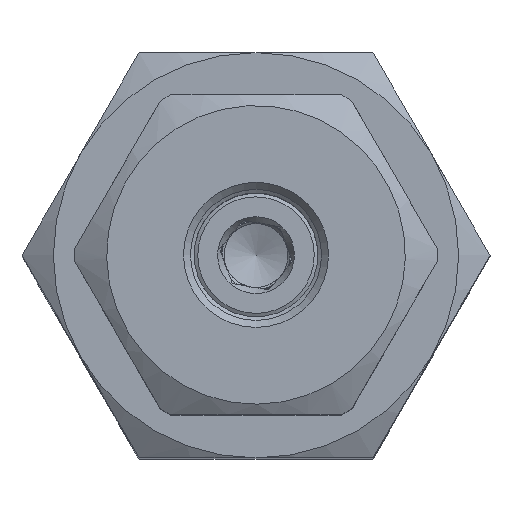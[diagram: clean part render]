
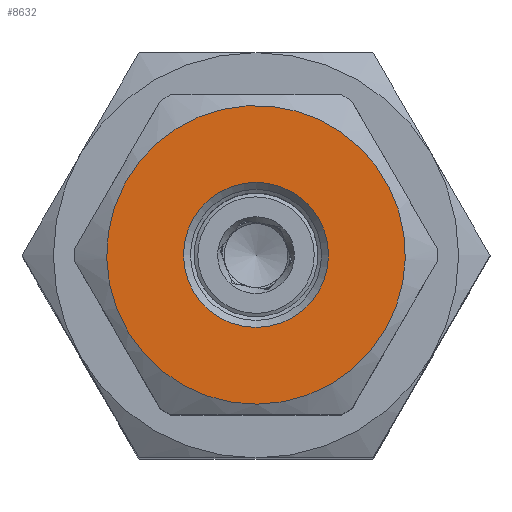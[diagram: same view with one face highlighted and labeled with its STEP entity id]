
A CAD part, top view. The second image highlights one B-rep face of the part: STEP entity #8632.
In plain terms, the highlighted planar face has unit normal (0, 0, 1) as drawn and (-1, 0, 0) by its records, which use the part's own axes.
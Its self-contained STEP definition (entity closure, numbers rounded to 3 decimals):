
#7 = AXIS2_PLACEMENT_3D ( 'NONE', #16729, #15075, #21828 ) ;
#673 = CARTESIAN_POINT ( 'NONE',  ( 0., 0., 6.8 ) ) ;
#3080 = VERTEX_POINT ( 'NONE', #13386 ) ;
#3195 = CARTESIAN_POINT ( 'NONE',  ( 0., 0., 0. ) ) ;
#3255 = EDGE_CURVE ( 'NONE', #12741, #12741, #16337, .T. ) ;
#3324 = FACE_BOUND ( 'NONE', #3866, .T. ) ;
#3866 = EDGE_LOOP ( 'NONE', ( #5302 ) ) ;
#5006 = ORIENTED_EDGE ( 'NONE', *, *, #12978, .T. ) ;
#5302 = ORIENTED_EDGE ( 'NONE', *, *, #3255, .T. ) ;
#6415 = DIRECTION ( 'NONE',  ( 1., 0., 0. ) ) ;
#7597 = CARTESIAN_POINT ( 'NONE',  ( 0., 0., 0. ) ) ;
#7914 = AXIS2_PLACEMENT_3D ( 'NONE', #7597, #21241, #14357 ) ;
#8632 = ADVANCED_FACE ( 'NONE', ( #3324, #15294 ), #13511, .T. ) ;
#12741 = VERTEX_POINT ( 'NONE', #673 ) ;
#12978 = EDGE_CURVE ( 'NONE', #3080, #3080, #15347, .T. ) ;
#13386 = CARTESIAN_POINT ( 'NONE',  ( 0., 0., 14. ) ) ;
#13511 = PLANE ( 'NONE',  #7 ) ;
#14357 = DIRECTION ( 'NONE',  ( 0., 0., 1. ) ) ;
#15075 = DIRECTION ( 'NONE',  ( -1., 0., 0. ) ) ;
#15288 = AXIS2_PLACEMENT_3D ( 'NONE', #3195, #6415, #21695 ) ;
#15294 = FACE_OUTER_BOUND ( 'NONE', #20572, .T. ) ;
#15347 = CIRCLE ( 'NONE', #7914, 14. ) ;
#16337 = CIRCLE ( 'NONE', #15288, 6.8 ) ;
#16729 = CARTESIAN_POINT ( 'NONE',  ( 0., 0., 0. ) ) ;
#20572 = EDGE_LOOP ( 'NONE', ( #5006 ) ) ;
#21241 = DIRECTION ( 'NONE',  ( -1., 0., 0. ) ) ;
#21695 = DIRECTION ( 'NONE',  ( 0., 0., 1. ) ) ;
#21828 = DIRECTION ( 'NONE',  ( 0., 0., 1. ) ) ;
